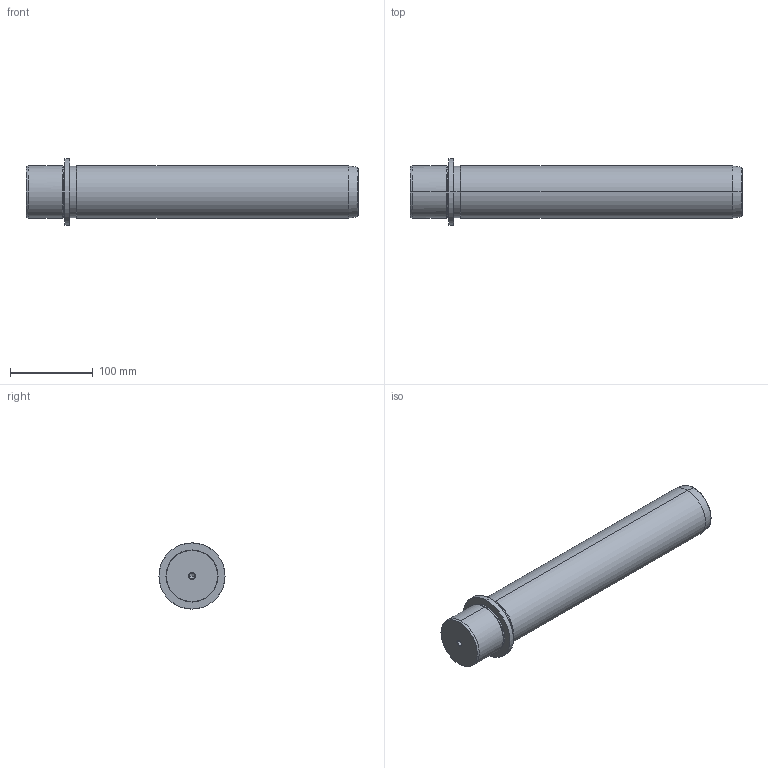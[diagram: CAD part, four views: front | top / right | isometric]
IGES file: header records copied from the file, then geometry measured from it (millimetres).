
Start section: START RECORD GO HERE.
Global section: file name: 718-63x355.igs; native system: DASSAULT SYSTEMES CATIA V5 R20 - www.3ds.com; preprocessor: CATIA Version 5 Release 20 ; author: Utente; organization: NB04-ASUS; date: 20210102.084044; units: millimetre
Bounding box: 402 x 80 x 80 mm (x, y, z)
Surface area: 90677.6 mm2 (no closed solid volume)
Topology: 0 solids, 0 shells, 36 faces, 196 edges, 192 vertices
Faces by surface type: revolution 32, plane 4
